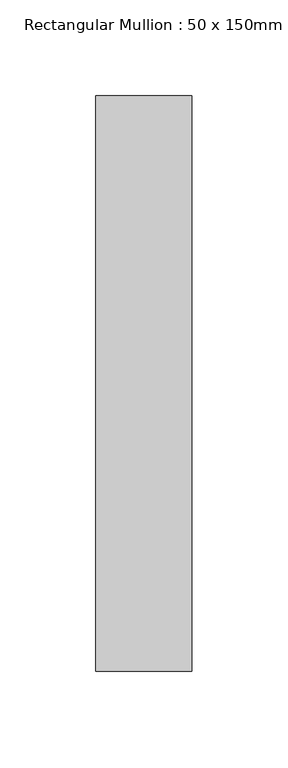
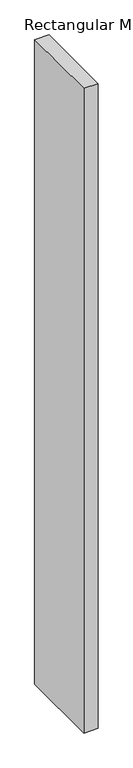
"""IFC4 building model written with IfcOpenShell, lengths in millimetres: member geometry, Rectangular Mullion : 50 x 150mm."""

from ifc_helpers import new_model, si_unit, frame, origin, place, context, project, spatial, polyline, outline, extrude, source, transform, mapped, element, save


def rectangular_mullion_50_x_150mm_b6e7ad0f(model_context):
    return source(origin(), model_context, "Body", "SweptSolid", [
        extrude(outline(polyline([(25.0, 125.0), (25.0, -175.0), (-25.0, -175.0), (-25.0, 125.0), (25.0, 125.0)])), frame((0.0, 0.0, -2400.0), z_axis=(0.0, 0.0, 1.0), x_axis=(1.0, 0.0, 0.0)), (0.0, 0.0, 1.0), 2400.0),
    ])


if __name__ == "__main__":
    model = new_model("IFC4")
    model_context = context("Model", 3, world=origin())
    ifc_project = project(units=[si_unit("LENGTHUNIT", "METRE", prefix="MILLI")], contexts=[model_context])
    site = spatial("IfcSite", under=ifc_project)
    building = spatial("IfcBuilding", under=site)
    placement = place(None, origin())
    rectangular_mullion_50_x_150mm_shape = rectangular_mullion_50_x_150mm_b6e7ad0f(model_context)
    element("IfcMember", 1, ObjectType="Rectangular Mullion : 50 x 150mm", at=placement, inside=building, context=model_context, shape_type="MappedRepresentation", body=[
        mapped(rectangular_mullion_50_x_150mm_shape, transform((0.0, 0.0, 0.0), x_axis=(1.0, 0.0, 0.0), y_axis=(0.0, 1.0, 0.0), z_axis=(0.0, 0.0, 1.0))),
    ])
    save(model, "model.ifc")
